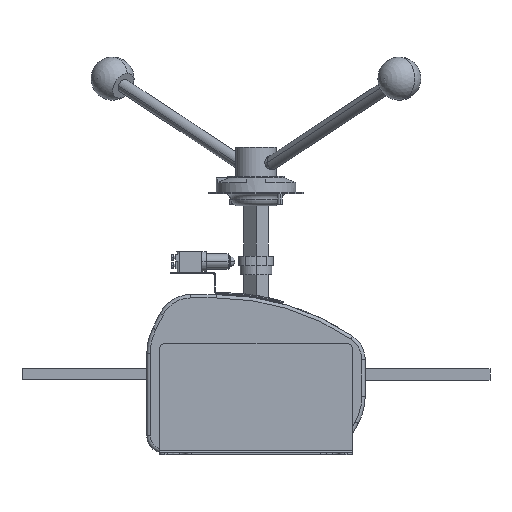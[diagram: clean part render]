
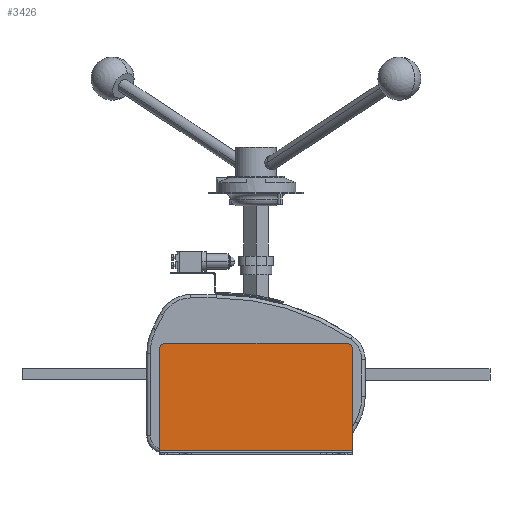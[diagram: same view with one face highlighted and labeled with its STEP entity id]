
A CAD part, left-side view. The second image highlights one B-rep face of the part: STEP entity #3426.
In plain terms, the highlighted planar face has unit normal (-1, 0, 0).
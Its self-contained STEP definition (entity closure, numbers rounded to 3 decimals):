
#26 = DIRECTION ( 'NONE',  ( 0., 1., 0. ) ) ;
#649 = VERTEX_POINT ( 'NONE', #5862 ) ;
#790 = LINE ( 'NONE', #15890, #8895 ) ;
#922 = VERTEX_POINT ( 'NONE', #3529 ) ;
#1167 = DIRECTION ( 'NONE',  ( -1., 0., 0. ) ) ;
#1275 = CARTESIAN_POINT ( 'NONE',  ( -276.61, -85., 22. ) ) ;
#1393 = LINE ( 'NONE', #7893, #7478 ) ;
#2523 = CARTESIAN_POINT ( 'NONE',  ( -276.61, 85., 22. ) ) ;
#2613 = CIRCLE ( 'NONE', #13625, 5. ) ;
#2661 = VERTEX_POINT ( 'NONE', #2523 ) ;
#2690 = CARTESIAN_POINT ( 'NONE',  ( -276.61, -85., 27. ) ) ;
#3426 = ADVANCED_FACE ( 'NONE', ( #7172 ), #14763, .T. ) ;
#3529 = CARTESIAN_POINT ( 'NONE',  ( -276.61, 80., 27. ) ) ;
#4342 = ORIENTED_EDGE ( 'NONE', *, *, #7618, .F. ) ;
#4681 = CARTESIAN_POINT ( 'NONE',  ( -276.61, -85., -67. ) ) ;
#5156 = CARTESIAN_POINT ( 'NONE',  ( -276.61, 85., -67. ) ) ;
#5286 = EDGE_CURVE ( 'NONE', #7121, #6425, #13864, .T. ) ;
#5862 = CARTESIAN_POINT ( 'NONE',  ( -276.61, -80., 27. ) ) ;
#5875 = ORIENTED_EDGE ( 'NONE', *, *, #17431, .T. ) ;
#6425 = VERTEX_POINT ( 'NONE', #1275 ) ;
#6558 = EDGE_LOOP ( 'NONE', ( #11599, #5875, #7245, #10818, #15090, #4342 ) ) ;
#7121 = VERTEX_POINT ( 'NONE', #10467 ) ;
#7147 = AXIS2_PLACEMENT_3D ( 'NONE', #4681, #17633, #7503 ) ;
#7172 = FACE_OUTER_BOUND ( 'NONE', #6558, .T. ) ;
#7245 = ORIENTED_EDGE ( 'NONE', *, *, #7427, .T. ) ;
#7427 = EDGE_CURVE ( 'NONE', #649, #922, #12650, .T. ) ;
#7478 = VECTOR ( 'NONE', #13344, 1000. ) ;
#7503 = DIRECTION ( 'NONE',  ( 0., 0., 1. ) ) ;
#7618 = EDGE_CURVE ( 'NONE', #7121, #14322, #1393, .T. ) ;
#7893 = CARTESIAN_POINT ( 'NONE',  ( -276.61, -85., -67. ) ) ;
#8895 = VECTOR ( 'NONE', #18637, 1000. ) ;
#9772 = DIRECTION ( 'NONE',  ( 0., 0., 1. ) ) ;
#10467 = CARTESIAN_POINT ( 'NONE',  ( -276.61, -85., -67. ) ) ;
#10818 = ORIENTED_EDGE ( 'NONE', *, *, #15789, .T. ) ;
#11599 = ORIENTED_EDGE ( 'NONE', *, *, #5286, .T. ) ;
#11974 = DIRECTION ( 'NONE',  ( 0., 0., 1. ) ) ;
#12196 = EDGE_CURVE ( 'NONE', #14322, #2661, #790, .T. ) ;
#12510 = VECTOR ( 'NONE', #16299, 1000. ) ;
#12650 = LINE ( 'NONE', #2690, #15113 ) ;
#13344 = DIRECTION ( 'NONE',  ( 0., 1., 0. ) ) ;
#13423 = DIRECTION ( 'NONE',  ( -1., 0., 0. ) ) ;
#13625 = AXIS2_PLACEMENT_3D ( 'NONE', #16974, #1167, #9772 ) ;
#13814 = AXIS2_PLACEMENT_3D ( 'NONE', #16433, #13423, #11974 ) ;
#13864 = LINE ( 'NONE', #17854, #12510 ) ;
#13980 = CIRCLE ( 'NONE', #13814, 5. ) ;
#14322 = VERTEX_POINT ( 'NONE', #5156 ) ;
#14763 = PLANE ( 'NONE',  #7147 ) ;
#15090 = ORIENTED_EDGE ( 'NONE', *, *, #12196, .F. ) ;
#15113 = VECTOR ( 'NONE', #26, 1000. ) ;
#15789 = EDGE_CURVE ( 'NONE', #922, #2661, #13980, .T. ) ;
#15890 = CARTESIAN_POINT ( 'NONE',  ( -276.61, 85., -67. ) ) ;
#16299 = DIRECTION ( 'NONE',  ( 0., 0., 1. ) ) ;
#16433 = CARTESIAN_POINT ( 'NONE',  ( -276.61, 80., 22. ) ) ;
#16974 = CARTESIAN_POINT ( 'NONE',  ( -276.61, -80., 22. ) ) ;
#17431 = EDGE_CURVE ( 'NONE', #6425, #649, #2613, .T. ) ;
#17633 = DIRECTION ( 'NONE',  ( -1., 0., 0. ) ) ;
#17854 = CARTESIAN_POINT ( 'NONE',  ( -276.61, -85., -67. ) ) ;
#18637 = DIRECTION ( 'NONE',  ( 0., 0., 1. ) ) ;
